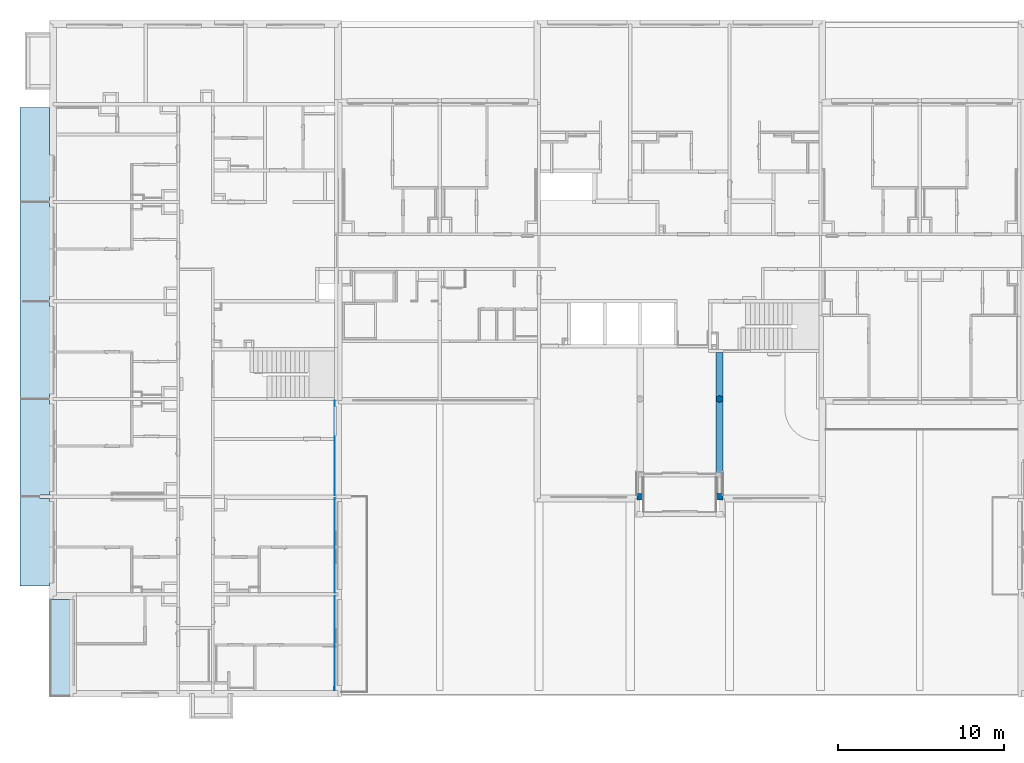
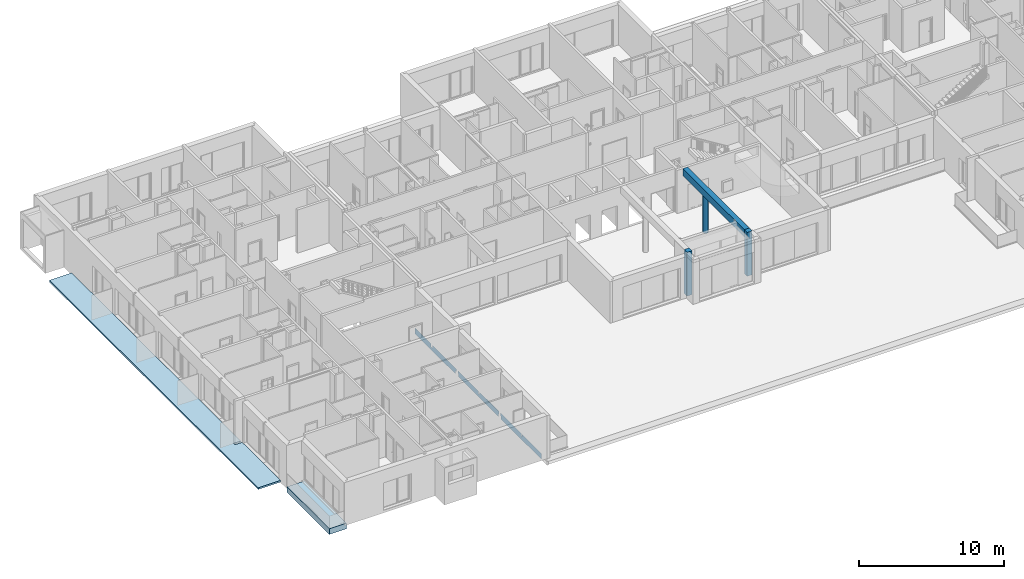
# One storey, part 1 of 46: 3 columns, 3 slabs, 1 beam.
"""IFC2X3 building model written with IfcOpenShell, lengths in millimetres."""

from ifc_helpers import new_model, entity, si_unit, converted_unit, derived_unit, money_unit, direction, frame, origin_with_axes, place, context, subcontext, project, spatial, faceted_brep, material, material_list, type_object, element, save


model = new_model("IFC2X3")

# Units and contexts
model_context = context("Model", 3, precision=0.01, world=origin_with_axes(), true_north=direction((0.34421633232, 0.938890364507)))
body_context = subcontext(model_context, "Body", "Model", "MODEL_VIEW")
ifc_project = project(units=[si_unit("LENGTHUNIT", "METRE", prefix="MILLI"), si_unit("AREAUNIT", "SQUARE_METRE"), si_unit("VOLUMEUNIT", "CUBIC_METRE"), converted_unit("PLANEANGLEUNIT", "DEGREE", entity("IfcPlaneAngleMeasure", 0.0174532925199), si_unit("PLANEANGLEUNIT", "RADIAN"), dimensions=[0, 0, 0, 0, 0, 0, 0]), si_unit("SOLIDANGLEUNIT", "STERADIAN"), money_unit("USD"), converted_unit("TIMEUNIT", "Year", entity("IfcTimeMeasure", 31556926.0), si_unit("TIMEUNIT", "SECOND"), dimensions=[0, 0, 1, 0, 0, 0, 0]), si_unit("MASSUNIT", "GRAM", prefix="KILO"), si_unit("THERMODYNAMICTEMPERATUREUNIT", "DEGREE_CELSIUS"), si_unit("LUMINOUSINTENSITYUNIT", "LUMEN"), si_unit("ENERGYUNIT", "JOULE", prefix="MEGA"), derived_unit("THERMALCONDUCTANCEUNIT", [(si_unit("POWERUNIT", "WATT"), 1), (si_unit("LENGTHUNIT", "METRE"), -1), (si_unit("THERMODYNAMICTEMPERATUREUNIT", "KELVIN"), -1)]), derived_unit("SPECIFICHEATCAPACITYUNIT", [(si_unit("ENERGYUNIT", "JOULE"), 1), (si_unit("MASSUNIT", "GRAM", prefix="KILO"), -1), (si_unit("THERMODYNAMICTEMPERATUREUNIT", "KELVIN"), -1)]), derived_unit("MASSDENSITYUNIT", [(si_unit("MASSUNIT", "GRAM", prefix="KILO"), 1), (si_unit("VOLUMEUNIT", "CUBIC_METRE"), -1)])], contexts=[model_context])

# Site, building, storey
site_placement = place(None, origin_with_axes())
site = spatial("IfcSite", under=ifc_project, at=site_placement, Name="USTRONIE MORSKIE", CompositionType="ELEMENT")
building_placement = place(site_placement, origin_with_axes())
building = spatial("IfcBuilding", under=site, at=building_placement, Name="Budynek", CompositionType="ELEMENT")
storey_placement = place(building_placement, origin_with_axes())
storey = spatial("IfcBuildingStorey", under=building, at=storey_placement, Name="PARTER", CompositionType="ELEMENT", Elevation=0.0)

# Columns
ifc_material_1 = material(Name="----PREFABRYKATY")
column_type_1 = type_object("IfcColumnType", Name="----PREFABRYKATY D400", PredefinedType="NOTDEFINED")
column_1_placement = place(storey_placement, frame((390217.920919, 726901.199036, -60.0), z_axis=(0.0, 0.0, 1.0), x_axis=(1.0, 0.0, 0.0)))
element("IfcColumn", 1, at=column_1_placement, inside=storey, type_object=column_type_1, material=ifc_material_1, Name="S1", context=body_context, shape_type="Brep", body=[
    faceted_brep([(196.157056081, 39.0180644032, 3100.00000683), (196.157056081, 39.0180644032, 0.0), (184.775906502, 76.536686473, 0.0), (184.775906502, 76.536686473, 3100.00000683), (200.0, 0.0, 3100.00000683), (200.0, 0.0, 0.0), (196.157056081, -39.0180644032, 0.0), (184.775906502, -76.536686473, 0.0), (166.293922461, -111.114046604, 0.0), (141.421356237, -141.421356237, 0.0), (111.114046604, -166.29392246, 0.0), (76.536686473, -184.775906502, 0.0), (39.0180644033, -196.157056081, 0.0), (0.0, -200.0, 0.0), (-39.0180644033, -196.157056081, 0.0), (-76.536686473, -184.775906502, 0.0), (-111.114046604, -166.29392246, 0.0), (-141.421356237, -141.421356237, 0.0), (-166.293922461, -111.114046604, 0.0), (-184.775906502, -76.536686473, 0.0), (-196.157056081, -39.0180644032, 0.0), (-200.0, 0.0, 0.0), (-196.157056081, 39.0180644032, 0.0), (-184.775906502, 76.536686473, 0.0), (-166.293922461, 111.114046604, 0.0), (-141.421356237, 141.421356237, 0.0), (-111.114046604, 166.29392246, 0.0), (-76.536686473, 184.775906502, 0.0), (-39.0180644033, 196.157056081, 0.0), (0.0, 200.0, 0.0), (39.0180644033, 196.157056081, 0.0), (76.536686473, 184.775906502, 0.0), (111.114046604, 166.29392246, 0.0), (141.421356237, 141.421356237, 0.0), (166.293922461, 111.114046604, 0.0), (166.293922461, 111.114046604, 3100.00000683), (141.421356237, 141.421356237, 3100.00000683), (111.114046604, 166.29392246, 3100.00000683), (76.536686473, 184.775906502, 3100.00000683), (39.0180644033, 196.157056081, 3100.00000683), (0.0, 200.0, 3100.00000683), (-39.0180644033, 196.157056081, 3100.00000683), (-76.536686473, 184.775906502, 3100.00000683), (-111.114046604, 166.29392246, 3100.00000683), (-141.421356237, 141.421356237, 3100.00000683), (-166.293922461, 111.114046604, 3100.00000683), (-184.775906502, 76.536686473, 3100.00000683), (-196.157056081, 39.0180644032, 3100.00000683), (-200.0, 0.0, 3100.00000683), (-196.157056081, -39.0180644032, 3100.00000683), (-184.775906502, -76.536686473, 3100.00000683), (-166.293922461, -111.114046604, 3100.00000683), (-141.421356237, -141.421356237, 3100.00000683), (-111.114046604, -166.29392246, 3100.00000683), (-76.536686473, -184.775906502, 3100.00000683), (-39.0180644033, -196.157056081, 3100.00000683), (0.0, -200.0, 3100.00000683), (39.0180644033, -196.157056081, 3100.00000683), (76.536686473, -184.775906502, 3100.00000683), (111.114046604, -166.29392246, 3100.00000683), (141.421356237, -141.421356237, 3100.00000683), (166.293922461, -111.114046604, 3100.00000683), (184.775906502, -76.536686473, 3100.00000683), (196.157056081, -39.0180644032, 3100.00000683)], [[[0, 1, 2, 3]], [[4, 5, 1, 0]], [[2, 1, 5, 6, 7, 8, 9, 10, 11, 12, 13, 14, 15, 16, 17, 18, 19, 20, 21, 22, 23, 24, 25, 26, 27, 28, 29, 30, 31, 32, 33, 34]], [[3, 2, 34, 35]], [[4, 0, 3, 35, 36, 37, 38, 39, 40, 41, 42, 43, 44, 45, 46, 47, 48, 49, 50, 51, 52, 53, 54, 55, 56, 57, 58, 59, 60, 61, 62, 63]], [[63, 6, 5, 4]], [[62, 7, 6, 63]], [[61, 8, 7, 62]], [[60, 9, 8, 61]], [[59, 10, 9, 60]], [[58, 11, 10, 59]], [[57, 12, 11, 58]], [[56, 13, 12, 57]], [[55, 14, 13, 56]], [[54, 15, 14, 55]], [[53, 16, 15, 54]], [[52, 17, 16, 53]], [[51, 18, 17, 52]], [[50, 19, 18, 51]], [[49, 20, 19, 50]], [[48, 21, 20, 49]], [[47, 22, 21, 48]], [[46, 23, 22, 47]], [[45, 24, 23, 46]], [[44, 25, 24, 45]], [[43, 26, 25, 44]], [[42, 27, 26, 43]], [[41, 28, 27, 42]], [[40, 29, 28, 41]], [[39, 30, 29, 40]], [[38, 31, 30, 39]], [[37, 32, 31, 38]], [[36, 33, 32, 37]], [[35, 34, 33, 36]]]),
])
column_type_2 = type_object("IfcColumnType", Name="----PREFABRYKATY 400 x 400", PredefinedType="NOTDEFINED")
column_2_placement = place(storey_placement, frame((390217.920919, 721001.199036, -60.0), z_axis=(0.0, 0.0, 1.0), x_axis=(1.0, 0.0, 0.0)))
element("IfcColumn", 2, at=column_2_placement, inside=storey, type_object=column_type_2, material=ifc_material_1, Name="S1", context=body_context, shape_type="Brep", body=[
    faceted_brep([(-200.0, -200.0, 3700.0), (-200.0, -200.0, 0.0), (200.0, -200.0, 0.0), (200.0, -200.0, 3700.0), (-200.0, 200.0, 3700.0), (-200.0, 200.0, 0.0), (200.0, 200.0, 0.0), (200.0, 200.0, 3700.0)], [[[0, 1, 2, 3]], [[4, 5, 1, 0]], [[2, 1, 5, 6]], [[3, 2, 6, 7]], [[4, 0, 3, 7]], [[7, 6, 5, 4]]]),
])
column_3_placement = place(storey_placement, frame((385417.920919, 721001.199036, -60.0), z_axis=(0.0, 0.0, 1.0), x_axis=(1.0, 0.0, 0.0)))
element("IfcColumn", 3, at=column_3_placement, inside=storey, type_object=column_type_2, material=ifc_material_1, Name="S1", context=body_context, shape_type="Brep", body=[
    faceted_brep([(200.0, 200.0, 3700.0), (200.0, 200.0, 0.0), (-200.0, 200.0, 0.0), (-200.0, 200.0, 3700.0), (200.0, -200.0, 3700.0), (200.0, -200.0, 0.0), (-200.0, -200.0, 0.0), (-200.0, -200.0, 3700.0)], [[[0, 1, 2, 3]], [[4, 5, 1, 0]], [[2, 1, 5, 6]], [[3, 2, 6, 7]], [[4, 0, 3, 7]], [[7, 6, 5, 4]]]),
])

# Beam
ifc_material_2 = material(Name="Beton konstrukcyjny B25")
beam_type = type_object("IfcBeamType", Name="Beton konstrukcyjny B25 400 x 600", PredefinedType="NOTDEFINED")
beam_placement = place(storey_placement, frame((390217.920919, 721201.199036, 3640.0), z_axis=(0.0, 0.0, 1.0), x_axis=(1.0, 0.0, 0.0)))
element("IfcBeam", 4, at=beam_placement, inside=storey, type_object=beam_type, material=ifc_material_2, Name="B1", context=body_context, shape_type="Brep", body=[
    faceted_brep([(200.0, 0.0, -600.0), (-200.0, 0.0, -600.0), (-200.0, 8500.0, -600.0), (200.0, 8500.0, -600.0), (200.0, 0.0, 0.0), (-200.0, 0.0, 0.0), (-200.0, 8500.0, 0.0), (200.0, 8500.0, 0.0)], [[[0, 1, 2, 3]], [[4, 5, 1, 0]], [[1, 5, 6, 2]], [[7, 3, 2, 6]], [[4, 0, 3, 7]], [[5, 4, 7, 6]]]),
])

# Slabs
ifc_material_3 = material(Name="Bloczki betonowe")
ifc_material_4 = material(Name="Piasek")
ifc_material_5 = material(Name="Membrana hydroizolacyjna")
ifc_material_6 = material(Name="Polistyren ekstrudowany")
ifc_material_7 = material(Name="Beton")
ifc_material_list_1 = material_list([ifc_material_3, ifc_material_4, ifc_material_5, ifc_material_6, ifc_material_5, ifc_material_7])
slab_type_1 = type_object("IfcSlabType", Name="611-DS Wykonczenie teren komunikacja  480", PredefinedType="FLOOR")
slab_1_placement = place(storey_placement, frame((349807.920919, 708941.199036, -100.000000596), z_axis=(0.0, 0.0, 1.0), x_axis=(1.0, 0.0, 0.0)))
element("IfcSlab", 5, at=slab_1_placement, inside=storey, type_object=slab_type_1, material=ifc_material_list_1, Name="P2", PredefinedType="FLOOR", context=body_context, shape_type="Brep", body=[
    faceted_brep([(0.0, 0.0, -60.0), (1360.00000002, 0.0, -60.0), (1360.00000002, 0.0, 0.0), (0.0, 0.0, 0.0), (0.0, 5860.0, -60.0), (1360.00000002, 5860.0, -60.0), (1360.00000002, 5860.0, 0.0), (0.0, 5860.0, 0.0)], [[[0, 1, 2, 3]], [[1, 0, 4, 5]], [[1, 5, 6, 2]], [[7, 3, 2, 6]], [[4, 0, 3, 7]], [[5, 4, 7, 6]]]),
    faceted_brep([(0.0, 0.0, -125.0), (1360.00000002, 0.0, -125.0), (1360.00000002, 0.0, -60.0), (0.0, 0.0, -60.0), (0.0, 5860.0, -125.0), (1360.00000002, 5860.0, -125.0), (1360.00000002, 5860.0, -60.0), (0.0, 5860.0, -60.0)], [[[0, 1, 2, 3]], [[1, 0, 4, 5]], [[1, 5, 6, 2]], [[7, 3, 2, 6]], [[4, 0, 3, 7]], [[5, 4, 7, 6]]]),
    faceted_brep([(0.0, 0.0, -125.0), (0.0, 0.0, -130.0), (1360.00000002, 0.0, -130.0), (1360.00000002, 0.0, -125.0), (0.0, 5860.0, -125.0), (0.0, 5860.0, -130.0), (1360.00000002, 5860.0, -130.0), (1360.00000002, 5860.0, -125.0)], [[[0, 1, 2, 3]], [[4, 5, 1, 0]], [[6, 2, 1, 5]], [[3, 2, 6, 7]], [[7, 4, 0, 3]], [[7, 6, 5, 4]]]),
    faceted_brep([(0.0, 0.0, -280.0), (1360.00000002, 0.0, -280.0), (1360.00000002, 0.0, -130.0), (0.0, 0.0, -130.0), (0.0, 5860.0, -280.0), (1360.00000002, 5860.0, -280.0), (1360.00000002, 5860.0, -130.0), (0.0, 5860.0, -130.0)], [[[0, 1, 2, 3]], [[1, 0, 4, 5]], [[1, 5, 6, 2]], [[7, 3, 2, 6]], [[4, 0, 3, 7]], [[5, 4, 7, 6]]]),
    faceted_brep([(0.0, 0.0, -285.0), (1360.00000002, 0.0, -285.0), (1360.00000002, 0.0, -280.0), (0.0, 0.0, -280.0), (0.0, 5860.0, -285.0), (1360.00000002, 5860.0, -285.0), (1360.00000002, 5860.0, -280.0), (0.0, 5860.0, -280.0)], [[[0, 1, 2, 3]], [[1, 0, 4, 5]], [[1, 5, 6, 2]], [[7, 3, 2, 6]], [[4, 0, 3, 7]], [[5, 4, 7, 6]]]),
    faceted_brep([(0.0, 0.0, -285.0), (0.0, 0.0, -480.0), (1360.00000002, 0.0, -480.0), (1360.00000002, 0.0, -285.0), (0.0, 5860.0, -285.0), (0.0, 5860.0, -480.0), (1360.00000002, 5860.0, -480.0), (1360.00000002, 5860.0, -285.0)], [[[0, 1, 2, 3]], [[4, 5, 1, 0]], [[2, 1, 5, 6]], [[3, 2, 6, 7]], [[4, 0, 3, 7]], [[7, 6, 5, 4]]]),
])
ifc_material_8 = material(Name="Płytki podłogowe")
ifc_material_9 = material(Name="Klej elastyczny")
ifc_material_10 = material(Name="Płyty styropianowe EPS PODŁOGA")
ifc_material_11 = material(Name="Beton konstrukcyjny 01")
ifc_material_12 = material(Name="Termoizolacja WEŁNA SKALNA")
ifc_material_list_2 = material_list([ifc_material_8, ifc_material_9, ifc_material_7, ifc_material_10, ifc_material_11, ifc_material_12])
slab_type_2 = type_object("IfcSlabType", Name="501-P2 STROP PARTER 480", PredefinedType="FLOOR")
slab_2_placement = place(storey_placement, frame((366962.536981, 709301.199036, 0.0), z_axis=(0.0, 0.0, 1.0), x_axis=(1.0, 0.0, 0.0)))
element("IfcSlab", 6, at=slab_2_placement, inside=storey, type_object=slab_type_2, material=ifc_material_list_2, Name="P2", PredefinedType="FLOOR", context=body_context, shape_type="Brep", body=[
    faceted_brep([(5.38393749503, 2690.01936646, -10.0), (5.38393749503, 2690.01936646, 0.0), (5.38393749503, 0.0, 0.0), (5.38393749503, 0.0, -10.0), (0.360719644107, 2690.01936646, 0.0), (0.360719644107, 2690.01936646, -10.0), (0.0, 0.0, 0.0), (0.0, 0.0, -10.0)], [[[0, 1, 2, 3]], [[4, 1, 0, 5]], [[1, 4, 6, 2]], [[3, 2, 6, 7]], [[5, 0, 3, 7]], [[4, 5, 7, 6]]]),
    faceted_brep([(5.38393749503, 8590.01935038, -10.0), (5.38393749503, 8590.01935038, 0.0), (5.38393749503, 5900.0, 0.0), (5.38393749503, 5900.0, -10.0), (1.15188342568, 8590.01935038, 0.0), (1.15188342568, 8590.01935038, -10.0), (0.791163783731, 5900.0, 0.0), (0.791163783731, 5900.0, -10.0)], [[[0, 1, 2, 3]], [[4, 1, 0, 5]], [[1, 4, 6, 2]], [[7, 3, 2, 6]], [[5, 0, 3, 7]], [[4, 5, 7, 6]]]),
    faceted_brep([(5.38393749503, 11525.0064122, -10.0000000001), (5.38393749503, 11525.0064122, -1.3433698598e-10), (5.38393749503, 8710.01935038, 0.0), (5.38393749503, 8710.01935038, -10.0), (1.54545214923, 11525.0064122, 0.0), (1.54545214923, 11525.0064122, -10.0), (1.1679748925, 8710.01935038, 0.0), (1.1679748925, 8710.01935038, -10.0)], [[[0, 1, 2, 3]], [[4, 1, 0, 5]], [[1, 4, 6, 2]], [[3, 2, 6, 7]], [[5, 0, 3, 7]], [[4, 5, 7, 6]]]),
    faceted_brep([(0.376811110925, 2810.01936646, 0.0), (5.38393749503, 2810.01936646, 0.0), (5.38393749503, 5700.0, 0.0), (0.764344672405, 5700.0, 0.0), (5.38393749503, 2810.01936646, -10.0), (0.376811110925, 2810.01936646, -10.0), (5.38393749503, 5700.0, -10.0), (0.764344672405, 5700.0, -10.0)], [[[0, 1, 2, 3]], [[4, 1, 0, 5]], [[1, 4, 6, 2]], [[7, 3, 2, 6]], [[5, 0, 3, 7]], [[4, 5, 7, 6]]]),
    faceted_brep([(2.04898010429, 15280.0, 0.0), (5.38418006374, 15280.0, -2.56239474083e-10), (5.38393749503, 17500.0, 0.0), (2.34667223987, 17500.0, 0.0), (5.3841695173, 15280.0, -10.0000000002), (2.04898010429, 15280.0, -10.0), (5.38393749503, 17500.0, -10.0), (2.34667223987, 17500.0, -10.0)], [[[0, 1, 2, 3]], [[4, 1, 0, 5]], [[1, 4, 6, 2]], [[6, 7, 3, 2]], [[5, 0, 3, 7]], [[4, 5, 7, 6]]]),
    faceted_brep([(1.58232842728, 11800.0064122, 0.0), (5.38406566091, 11800.0064122, -1.47215573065e-10), (5.38420253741, 15100.0, -3.04645197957e-10), (2.02484290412, 15100.0, 0.0), (5.38406008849, 11800.0064122, -10.0000000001), (1.58232842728, 11800.0064122, -10.0), (5.38419101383, 15100.0, -10.0000000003), (2.02484290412, 15100.0, -10.0)], [[[0, 1, 2, 3]], [[4, 1, 0, 5]], [[1, 4, 6, 2]], [[7, 3, 2, 6]], [[5, 0, 3, 7]], [[4, 5, 7, 6]]]),
    faceted_brep([(5.38393749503, 2690.01936646, -15.0), (5.38393749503, 2690.01936646, -10.0), (5.38393749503, 0.0, -10.0), (5.38393749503, 0.0, -15.0), (0.360719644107, 2690.01936646, -10.0), (0.360719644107, 2690.01936646, -15.0), (0.0, 0.0, -10.0), (0.0, 0.0, -15.0)], [[[0, 1, 2, 3]], [[4, 1, 0, 5]], [[1, 4, 6, 2]], [[3, 2, 6, 7]], [[5, 0, 3, 7]], [[4, 5, 7, 6]]]),
    faceted_brep([(5.38393749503, 8590.01935038, -15.0), (5.38393749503, 8590.01935038, -10.0), (5.38393749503, 5900.0, -10.0), (5.38393749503, 5900.0, -15.0), (1.15188342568, 8590.01935038, -10.0), (1.15188342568, 8590.01935038, -15.0), (0.791163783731, 5900.0, -10.0), (0.791163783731, 5900.0, -15.0)], [[[0, 1, 2, 3]], [[4, 1, 0, 5]], [[1, 4, 6, 2]], [[7, 3, 2, 6]], [[5, 0, 3, 7]], [[4, 5, 7, 6]]]),
    faceted_brep([(5.38393749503, 11525.0064122, -15.0000000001), (5.38393749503, 11525.0064122, -10.0000000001), (5.38393749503, 8710.01935038, -10.0), (5.38393749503, 8710.01935038, -15.0), (1.54545214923, 11525.0064122, -10.0), (1.54545214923, 11525.0064122, -15.0), (1.1679748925, 8710.01935038, -10.0), (1.1679748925, 8710.01935038, -15.0)], [[[0, 1, 2, 3]], [[4, 1, 0, 5]], [[1, 4, 6, 2]], [[3, 2, 6, 7]], [[5, 0, 3, 7]], [[4, 5, 7, 6]]]),
    faceted_brep([(0.376811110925, 2810.01936646, -10.0), (5.38393749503, 2810.01936646, -10.0), (5.38393749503, 5700.0, -10.0), (0.764344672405, 5700.0, -10.0), (5.38393749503, 2810.01936646, -15.0), (0.376811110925, 2810.01936646, -15.0), (5.38393749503, 5700.0, -15.0), (0.764344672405, 5700.0, -15.0)], [[[0, 1, 2, 3]], [[4, 1, 0, 5]], [[1, 4, 6, 2]], [[7, 3, 2, 6]], [[5, 0, 3, 7]], [[4, 5, 7, 6]]]),
    faceted_brep([(2.04898010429, 15280.0, -10.0), (5.3841695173, 15280.0, -10.0000000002), (5.38393749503, 17500.0, -10.0), (2.34667223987, 17500.0, -10.0), (5.38416424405, 15280.0, -15.0000000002), (2.04898010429, 15280.0, -15.0), (5.38393749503, 17500.0, -15.0), (2.34667223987, 17500.0, -15.0)], [[[0, 1, 2, 3]], [[4, 1, 0, 5]], [[1, 4, 6, 2]], [[6, 7, 3, 2]], [[5, 0, 3, 7]], [[4, 5, 7, 6]]]),
    faceted_brep([(1.58232842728, 11800.0064122, -10.0), (5.38406008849, 11800.0064122, -10.0000000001), (5.38419101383, 15100.0, -10.0000000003), (2.02484290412, 15100.0, -10.0), (5.38405730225, 11800.0064122, -15.0000000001), (1.58232842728, 11800.0064122, -15.0), (5.38418525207, 15100.0, -15.0000000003), (2.02484290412, 15100.0, -15.0)], [[[0, 1, 2, 3]], [[4, 1, 0, 5]], [[1, 4, 6, 2]], [[7, 3, 2, 6]], [[5, 0, 3, 7]], [[4, 5, 7, 6]]]),
    faceted_brep([(5.38393749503, 2690.01936646, -80.0), (5.38393749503, 2690.01936646, -15.0), (5.38393749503, 0.0, -15.0), (5.38393749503, 0.0, -80.0), (0.360719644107, 2690.01936646, -15.0), (0.360719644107, 2690.01936646, -80.0), (0.0, 0.0, -15.0), (0.0, 0.0, -80.0)], [[[0, 1, 2, 3]], [[4, 1, 0, 5]], [[1, 4, 6, 2]], [[3, 2, 6, 7]], [[5, 0, 3, 7]], [[4, 5, 7, 6]]]),
    faceted_brep([(5.38393749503, 8590.01935038, -80.0), (5.38393749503, 8590.01935038, -15.0), (5.38393749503, 5900.0, -15.0), (5.38393749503, 5900.0, -80.0), (1.15188342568, 8590.01935038, -15.0), (1.15188342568, 8590.01935038, -80.0), (0.791163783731, 5900.0, -15.0), (0.791163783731, 5900.0, -80.0)], [[[0, 1, 2, 3]], [[4, 1, 0, 5]], [[1, 4, 6, 2]], [[7, 3, 2, 6]], [[5, 0, 3, 7]], [[4, 5, 7, 6]]]),
    faceted_brep([(5.38401567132, 11600.0064122, -80.0000000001), (5.38404954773, 11600.0064122, -15.0000000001), (5.38393749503, 8710.01935038, -15.0), (5.38393749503, 8710.01935038, -80.0), (1.55550931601, 11600.0064122, -15.0), (1.55550931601, 11600.0064122, -80.0), (1.1679748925, 8710.01935038, -15.0), (1.1679748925, 8710.01935038, -80.0)], [[[0, 1, 2, 3]], [[4, 1, 0, 5]], [[1, 4, 6, 2]], [[6, 7, 3, 2]], [[5, 0, 3, 7]], [[4, 5, 7, 6]]]),
    faceted_brep([(0.376811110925, 2810.01936646, -15.0), (5.38393749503, 2810.01936646, -15.0), (5.38393749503, 5700.0, -15.0), (0.764344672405, 5700.0, -15.0), (5.38393749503, 2810.01936646, -80.0), (0.376811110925, 2810.01936646, -80.0), (5.38393749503, 5700.0, -80.0), (0.764344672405, 5700.0, -80.0)], [[[0, 1, 2, 3]], [[4, 1, 0, 5]], [[1, 4, 6, 2]], [[7, 3, 2, 6]], [[5, 0, 3, 7]], [[4, 5, 7, 6]]]),
    faceted_brep([(2.04898010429, 15280.0, -15.0), (5.38416424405, 15280.0, -15.0000000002), (5.38393749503, 17500.0, -15.0), (2.34667223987, 17500.0, -15.0), (5.38409569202, 15280.0, -80.0000000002), (2.04898010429, 15280.0, -80.0), (5.38393749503, 17500.0, -80.0), (2.34667223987, 17500.0, -80.0)], [[[0, 1, 2, 3]], [[4, 1, 0, 5]], [[1, 4, 6, 2]], [[6, 7, 3, 2]], [[5, 0, 3, 7]], [[4, 5, 7, 6]]]),
    faceted_brep([(1.58232842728, 11800.0064122, -15.0), (5.38405730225, 11800.0064122, -15.0000000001), (5.38418525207, 15100.0, -15.0000000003), (2.02484290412, 15100.0, -15.0), (5.38402108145, 11800.0064122, -80.0000000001), (1.58232842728, 11800.0064122, -80.0), (5.38411034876, 15100.0, -80.0000000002), (2.02484290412, 15100.0, -80.0)], [[[0, 1, 2, 3]], [[4, 1, 0, 5]], [[1, 4, 6, 2]], [[7, 3, 2, 6]], [[5, 0, 3, 7]], [[4, 5, 7, 6]]]),
    faceted_brep([(5.38393749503, 5900.0, -230.0), (5.38393749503, 8590.01935038, -230.0), (5.38393749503, 8590.01935038, -80.0), (5.38393749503, 5900.0, -80.0), (0.791163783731, 5900.0, -230.0), (1.15188342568, 8590.01935038, -230.0), (1.15188342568, 8590.01935038, -80.0), (0.791163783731, 5900.0, -80.0)], [[[0, 1, 2, 3]], [[4, 5, 1, 0]], [[5, 6, 2, 1]], [[3, 2, 6, 7]], [[7, 4, 0, 3]], [[7, 6, 5, 4]]]),
    faceted_brep([(5.38393749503, 8710.01935038, -230.0), (5.38393749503, 11600.0064122, -230.0), (5.38401567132, 11600.0064122, -80.0000000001), (5.38393749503, 8710.01935038, -80.0), (1.1679748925, 8710.01935038, -230.0), (1.55550931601, 11600.0064122, -230.0), (1.55550931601, 11600.0064122, -80.0), (1.1679748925, 8710.01935038, -80.0)], [[[0, 1, 2, 3]], [[4, 5, 1, 0]], [[5, 6, 2, 1]], [[3, 2, 6, 7]], [[3, 7, 4, 0]], [[7, 6, 5, 4]]]),
    faceted_brep([(0.764344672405, 5700.0, -80.0), (0.376811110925, 2810.01936646, -80.0), (5.38393749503, 2810.01936646, -80.0), (5.38393749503, 5700.0, -80.0), (0.764344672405, 5700.0, -230.0), (0.376811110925, 2810.01936646, -230.0), (5.38393749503, 2810.01936646, -230.0), (5.38393749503, 5700.0, -230.0)], [[[0, 1, 2, 3]], [[4, 5, 1, 0]], [[5, 6, 2, 1]], [[3, 2, 6, 7]], [[7, 4, 0, 3]], [[7, 6, 5, 4]]]),
    faceted_brep([(2.02484290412, 15100.0, -80.0), (1.58232842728, 11800.0064122, -80.0), (5.38402108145, 11800.0064122, -80.0000000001), (5.38411034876, 15100.0, -80.0000000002), (2.02484290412, 15100.0, -230.0), (1.58232842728, 11800.0064122, -230.0), (5.38393749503, 11800.0064122, -230.0), (5.38393749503, 15100.0, -230.0)], [[[0, 1, 2, 3]], [[4, 5, 1, 0]], [[5, 6, 2, 1]], [[3, 2, 6, 7]], [[7, 4, 0, 3]], [[7, 6, 5, 4]]]),
    faceted_brep([(5.38393749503, 2690.01936646, -230.0), (5.38393749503, 2690.01936646, -80.0), (5.38393749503, 0.0, -80.0), (5.38393749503, 0.0, -230.0), (0.360719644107, 2690.01936646, -80.0), (0.360719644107, 2690.01936646, -230.0), (0.0, 0.0, -80.0), (0.0, 0.0, -230.0)], [[[0, 1, 2, 3]], [[4, 1, 0, 5]], [[1, 4, 6, 2]], [[3, 2, 6, 7]], [[5, 0, 3, 7]], [[4, 5, 7, 6]]]),
    faceted_brep([(2.04898010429, 15280.0, -80.0), (5.38409569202, 15280.0, -80.0000000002), (5.38393749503, 17500.0, -80.0), (2.34667223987, 17500.0, -80.0), (5.38393749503, 15280.0, -230.0), (2.04898010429, 15280.0, -230.0), (5.38393749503, 17500.0, -230.0), (2.34667223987, 17500.0, -230.0)], [[[0, 1, 2, 3]], [[4, 1, 0, 5]], [[1, 4, 6, 2]], [[6, 7, 3, 2]], [[5, 0, 3, 7]], [[4, 5, 7, 6]]]),
    faceted_brep([(5.38393749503, 5599.99999821, -430.0), (5.38393749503, 5600.0, -229.999693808), (5.38393749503, 0.0, -230.0), (5.38393749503, 0.0, -430.0), (0.750935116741, 5600.0, -229.999693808), (0.750935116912, 5600.00000119, -430.0), (0.0, 0.0, -230.0), (0.0, 0.0, -430.0)], [[[0, 1, 2, 3]], [[4, 1, 0, 5]], [[1, 4, 6, 2]], [[7, 3, 2, 6]], [[5, 0, 3, 7]], [[4, 5, 7, 6]]]),
    faceted_brep([(1.59573712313, 11900.0, -229.999693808), (5.38393749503, 11900.0, -229.999693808), (5.38393749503, 17500.0, -230.0), (2.34667223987, 17500.0, -230.0), (5.38393749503, 11900.0000018, -430.0), (1.59573712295, 11899.9999988, -430.0), (5.38393749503, 17500.0, -430.0), (2.34667223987, 17500.0, -430.0)], [[[0, 1, 2, 3]], [[4, 1, 0, 5]], [[1, 4, 6, 2]], [[6, 7, 3, 2]], [[5, 0, 3, 7]], [[4, 5, 7, 6]]]),
    faceted_brep([(0.804573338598, 6000.0, -229.999693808), (5.38393749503, 6000.0, -229.999693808), (5.38393749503, 11500.0, -229.999693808), (1.54209890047, 11500.0, -229.999693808), (5.38393749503, 5999.99999642, -430.0), (0.804573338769, 5999.99999523, -430.0), (5.38393749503, 11500.0000036, -430.0), (1.5420989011, 11500.0000048, -430.0)], [[[0, 1, 2, 3]], [[4, 1, 0, 5]], [[1, 4, 6, 2]], [[3, 2, 6, 7]], [[5, 0, 3, 7]], [[4, 5, 7, 6]]]),
    faceted_brep([(5.38393749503, 5599.99999776, -479.999698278), (5.38393749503, 5599.99999821, -430.0), (5.38393749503, 0.0, -430.0), (5.38393749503, 0.0, -480.0), (0.750935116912, 5600.00000119, -430.0), (0.750935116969, 5599.99999776, -479.999698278), (0.0, 0.0, -430.0), (0.0, 0.0, -480.0)], [[[0, 1, 2, 3]], [[4, 1, 0, 5]], [[1, 4, 6, 2]], [[6, 7, 3, 2]], [[5, 0, 3, 7]], [[4, 5, 7, 6]]]),
    faceted_brep([(1.59573712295, 11899.9999988, -430.0), (5.38393749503, 11900.0000018, -430.0), (5.38393749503, 17500.0, -430.0), (2.34667223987, 17500.0, -430.0), (5.38393749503, 11900.0000022, -479.999698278), (1.59573712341, 11900.0000022, -479.999698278), (5.38393749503, 17500.0, -480.0), (2.34667223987, 17500.0, -480.0)], [[[0, 1, 2, 3]], [[4, 1, 0, 5]], [[1, 4, 6, 2]], [[2, 6, 7, 3]], [[5, 0, 3, 7]], [[4, 5, 7, 6]]]),
    faceted_brep([(0.804573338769, 5999.99999523, -430.0), (5.38393749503, 5999.99999642, -430.0), (5.38393749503, 11500.0000036, -430.0), (1.5420989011, 11500.0000048, -430.0), (5.38393749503, 5999.99999553, -479.999698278), (0.804573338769, 5999.99999553, -479.999698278), (5.38393749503, 11500.0000045, -479.999698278), (1.5420989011, 11500.0000045, -479.999698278)], [[[0, 1, 2, 3]], [[4, 1, 0, 5]], [[1, 4, 6, 2]], [[3, 2, 6, 7]], [[5, 0, 3, 7]], [[4, 5, 7, 6]]]),
])
ifc_material_13 = material(Name="Laminat")
slab_type_3 = type_object("IfcSlabType", Name="Laminat 140", PredefinedType="FLOOR")
slab_3_placement = place(storey_placement, frame((349768.074907, 715601.199036, -40.0), z_axis=(0.0, 0.0, 1.0), x_axis=(1.0, 0.0, 0.0)))
element("IfcSlab", 7, at=slab_3_placement, inside=storey, type_object=slab_type_3, material=ifc_material_13, Name="P3", PredefinedType="FLOOR", context=body_context, shape_type="Brep", body=[
    faceted_brep([(-10.1539882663, 5300.0, 0.0), (-600.185267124, 5300.0, 0.0), (-600.185267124, 5500.0, 0.0), (-10.1539882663, 5500.0, 0.0), (-10.1539882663, 8389.99932241, 0.0), (-0.038167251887, 8389.99932241, 0.0), (-0.0387131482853, 8509.99932241, 0.0), (-10.1539882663, 8509.99932241, 0.0), (-10.1539882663, 14090.0006776, 0.0), (-0.0640973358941, 14090.0006776, 0.0), (-0.0646432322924, 14210.0006776, 0.0), (-10.1539882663, 14210.0006776, 0.0), (-10.1539882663, 20289.9993224, 0.0), (-0.0923019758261, 20289.9993224, 0.0), (-0.0928478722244, 20409.9993224, 0.0), (-10.1539882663, 20409.9993224, 0.0), (-10.1539882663, 28900.0, 0.0), (-1800.15398827, 28900.0, 0.0), (-1799.99879942, 0.0, 0.0), (-10.1539882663, 0.0, 0.0), (-10.1539882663, 2290.01935038, 0.0), (-0.0104176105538, 2290.01935038, 0.0), (-0.0109635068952, 2410.01935038, 0.0), (-10.1539882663, 2410.01935038, 0.0), (-600.185267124, 5300.0, -140.0), (-10.1539882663, 5300.0, -140.0), (-600.185267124, 5500.0, -140.0), (-10.1539882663, 5500.0, -140.0), (-10.1539882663, 8389.99932241, -140.0), (-0.038167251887, 8389.99932241, -140.0), (-0.0387131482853, 8509.99932241, -140.0), (-10.1539882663, 8509.99932241, -140.0), (-10.1539882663, 14090.0006776, -140.0), (-0.0640973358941, 14090.0006776, -140.0), (-0.0646432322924, 14210.0006776, -140.0), (-10.1539882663, 14210.0006776, -140.0), (-10.1539882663, 20289.9993224, -140.0), (-0.0923019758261, 20289.9993224, -140.0), (-0.0928478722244, 20409.9993224, -140.0), (-10.1539882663, 20409.9993224, -140.0), (-10.1539882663, 28900.0, -140.0), (-1800.15398827, 28900.0, -140.0), (-1799.99879942, 0.0, -140.0), (-10.1539882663, 0.0, -140.0), (-10.1539882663, 2290.01935038, -140.0), (-0.0104176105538, 2290.01935038, -140.0), (-0.0109635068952, 2410.01935038, -140.0), (-10.1539882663, 2410.01935038, -140.0)], [[[0, 1, 2, 3, 4, 5, 6, 7, 8, 9, 10, 11, 12, 13, 14, 15, 16, 17, 18, 19, 20, 21, 22, 23]], [[24, 1, 0, 25]], [[26, 2, 1, 24]], [[26, 27, 3, 2]], [[4, 3, 27, 28]], [[29, 5, 4, 28]], [[29, 30, 6, 5]], [[30, 31, 7, 6]], [[32, 8, 7, 31]], [[33, 9, 8, 32]], [[33, 34, 10, 9]], [[34, 35, 11, 10]], [[36, 12, 11, 35]], [[37, 13, 12, 36]], [[14, 13, 37, 38]], [[14, 38, 39, 15]], [[16, 15, 39, 40]], [[17, 16, 40, 41]], [[18, 17, 41, 42]], [[42, 43, 19, 18]], [[44, 20, 19, 43]], [[45, 21, 20, 44]], [[22, 21, 45, 46]], [[46, 47, 23, 22]], [[47, 25, 0, 23]], [[26, 24, 25, 47, 46, 45, 44, 43, 42, 41, 40, 39, 38, 37, 36, 35, 34, 33, 32, 31, 30, 29, 28, 27]]]),
])

save(model, "model.ifc")
